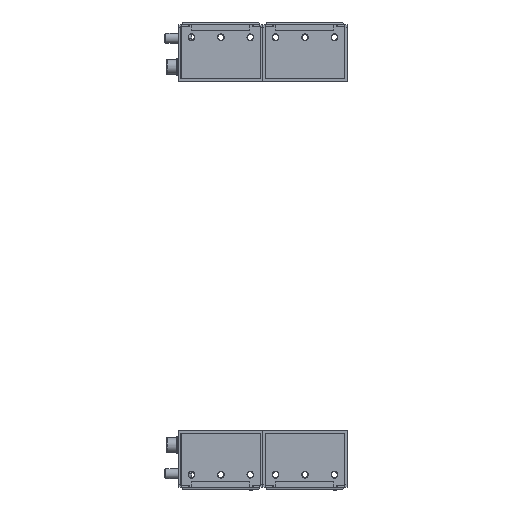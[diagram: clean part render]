
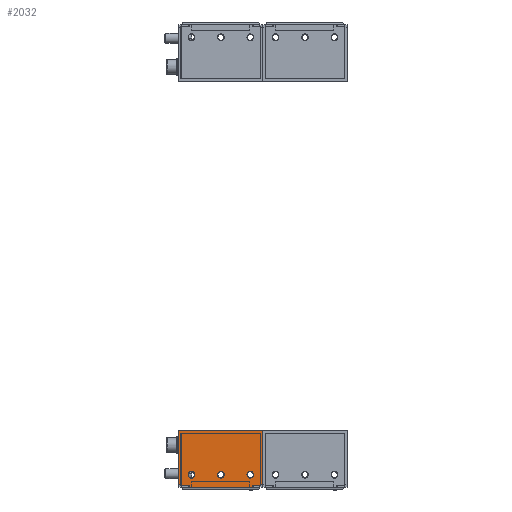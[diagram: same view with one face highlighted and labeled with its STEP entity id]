
A CAD part, left-side view. The second image highlights one B-rep face of the part: STEP entity #2032.
In plain terms, the highlighted planar face has unit normal (-1, 0, 0).
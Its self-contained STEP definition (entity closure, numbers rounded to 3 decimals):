
#335 = VERTEX_POINT('',#336);
#336 = CARTESIAN_POINT('',(-89.5,94.,-64.5));
#342 = EDGE_CURVE('',#335,#343,#345,.T.);
#343 = VERTEX_POINT('',#344);
#344 = CARTESIAN_POINT('',(-89.5,93.9,-64.5));
#345 = LINE('',#346,#347);
#346 = CARTESIAN_POINT('',(-89.5,93.,-64.5));
#347 = VECTOR('',#348,1.);
#348 = DIRECTION('',(0.,-1.,0.));
#367 = VERTEX_POINT('',#368);
#368 = CARTESIAN_POINT('',(-89.5,-0.9,-64.5));
#374 = EDGE_CURVE('',#375,#367,#377,.T.);
#375 = VERTEX_POINT('',#376);
#376 = CARTESIAN_POINT('',(-89.5,-1.,-64.5));
#377 = LINE('',#378,#379);
#378 = CARTESIAN_POINT('',(-89.5,93.,-64.5));
#379 = VECTOR('',#380,1.);
#380 = DIRECTION('',(0.,1.,0.));
#515 = VERTEX_POINT('',#516);
#516 = CARTESIAN_POINT('',(-89.5,-3.5,-67.));
#522 = EDGE_CURVE('',#523,#515,#525,.T.);
#523 = VERTEX_POINT('',#524);
#524 = CARTESIAN_POINT('',(-89.5,96.5,-67.));
#525 = LINE('',#526,#527);
#526 = CARTESIAN_POINT('',(-89.5,93.,-67.));
#527 = VECTOR('',#528,1.);
#528 = DIRECTION('',(-0.,-1.,-0.));
#1468 = VERTEX_POINT('',#1469);
#1469 = CARTESIAN_POINT('',(-89.5,94.,-3.5));
#1486 = VERTEX_POINT('',#1487);
#1487 = CARTESIAN_POINT('',(-89.5,96.5,-3.5));
#1493 = EDGE_CURVE('',#1468,#1486,#1494,.T.);
#1494 = LINE('',#1495,#1496);
#1495 = CARTESIAN_POINT('',(-89.5,94.,-3.5));
#1496 = VECTOR('',#1497,1.);
#1497 = DIRECTION('',(0.,1.,0.));
#2032 = ADVANCED_FACE('',(#2033,#2127,#2138,#2149),#2160,.T.);
#2033 = FACE_BOUND('',#2034,.T.);
#2034 = EDGE_LOOP('',(#2035,#2041,#2042,#2050,#2058,#2064,#2065,#2073,
    #2081,#2089,#2097,#2105,#2113,#2119,#2120,#2126));
#2035 = ORIENTED_EDGE('',*,*,#2036,.T.);
#2036 = EDGE_CURVE('',#1486,#523,#2037,.T.);
#2037 = LINE('',#2038,#2039);
#2038 = CARTESIAN_POINT('',(-89.5,96.5,0.));
#2039 = VECTOR('',#2040,1.);
#2040 = DIRECTION('',(0.,0.,-1.));
#2041 = ORIENTED_EDGE('',*,*,#522,.T.);
#2042 = ORIENTED_EDGE('',*,*,#2043,.T.);
#2043 = EDGE_CURVE('',#515,#2044,#2046,.T.);
#2044 = VERTEX_POINT('',#2045);
#2045 = CARTESIAN_POINT('',(-89.5,-3.5,-3.5));
#2046 = LINE('',#2047,#2048);
#2047 = CARTESIAN_POINT('',(-89.5,-3.5,-63.5));
#2048 = VECTOR('',#2049,1.);
#2049 = DIRECTION('',(0.,0.,1.));
#2050 = ORIENTED_EDGE('',*,*,#2051,.F.);
#2051 = EDGE_CURVE('',#2052,#2044,#2054,.T.);
#2052 = VERTEX_POINT('',#2053);
#2053 = CARTESIAN_POINT('',(-89.5,-1.,-3.5));
#2054 = LINE('',#2055,#2056);
#2055 = CARTESIAN_POINT('',(-89.5,-1.,-3.5));
#2056 = VECTOR('',#2057,1.);
#2057 = DIRECTION('',(0.,-1.,0.));
#2058 = ORIENTED_EDGE('',*,*,#2059,.T.);
#2059 = EDGE_CURVE('',#2052,#375,#2060,.T.);
#2060 = LINE('',#2061,#2062);
#2061 = CARTESIAN_POINT('',(-89.5,-1.,0.));
#2062 = VECTOR('',#2063,1.);
#2063 = DIRECTION('',(0.,0.,-1.));
#2064 = ORIENTED_EDGE('',*,*,#374,.T.);
#2065 = ORIENTED_EDGE('',*,*,#2066,.F.);
#2066 = EDGE_CURVE('',#2067,#367,#2069,.T.);
#2067 = VERTEX_POINT('',#2068);
#2068 = CARTESIAN_POINT('',(-89.5,-0.9,-2.6));
#2069 = LINE('',#2070,#2071);
#2070 = CARTESIAN_POINT('',(-89.5,-0.9,0.));
#2071 = VECTOR('',#2072,1.);
#2072 = DIRECTION('',(0.,0.,-1.));
#2073 = ORIENTED_EDGE('',*,*,#2074,.T.);
#2074 = EDGE_CURVE('',#2067,#2075,#2077,.T.);
#2075 = VERTEX_POINT('',#2076);
#2076 = CARTESIAN_POINT('',(-89.5,8.6,-2.6));
#2077 = LINE('',#2078,#2079);
#2078 = CARTESIAN_POINT('',(-89.5,-0.9,-2.6));
#2079 = VECTOR('',#2080,1.);
#2080 = DIRECTION('',(0.,1.,0.));
#2081 = ORIENTED_EDGE('',*,*,#2082,.T.);
#2082 = EDGE_CURVE('',#2075,#2083,#2085,.T.);
#2083 = VERTEX_POINT('',#2084);
#2084 = CARTESIAN_POINT('',(-89.5,8.6,0.));
#2085 = LINE('',#2086,#2087);
#2086 = CARTESIAN_POINT('',(-89.5,8.6,0.));
#2087 = VECTOR('',#2088,1.);
#2088 = DIRECTION('',(0.,0.,1.));
#2089 = ORIENTED_EDGE('',*,*,#2090,.F.);
#2090 = EDGE_CURVE('',#2091,#2083,#2093,.T.);
#2091 = VERTEX_POINT('',#2092);
#2092 = CARTESIAN_POINT('',(-89.5,84.4,0.));
#2093 = LINE('',#2094,#2095);
#2094 = CARTESIAN_POINT('',(-89.5,93.,0.));
#2095 = VECTOR('',#2096,1.);
#2096 = DIRECTION('',(0.,-1.,-0.));
#2097 = ORIENTED_EDGE('',*,*,#2098,.T.);
#2098 = EDGE_CURVE('',#2091,#2099,#2101,.T.);
#2099 = VERTEX_POINT('',#2100);
#2100 = CARTESIAN_POINT('',(-89.5,84.4,-2.6));
#2101 = LINE('',#2102,#2103);
#2102 = CARTESIAN_POINT('',(-89.5,84.4,0.));
#2103 = VECTOR('',#2104,1.);
#2104 = DIRECTION('',(0.,0.,-1.));
#2105 = ORIENTED_EDGE('',*,*,#2106,.T.);
#2106 = EDGE_CURVE('',#2099,#2107,#2109,.T.);
#2107 = VERTEX_POINT('',#2108);
#2108 = CARTESIAN_POINT('',(-89.5,93.9,-2.6));
#2109 = LINE('',#2110,#2111);
#2110 = CARTESIAN_POINT('',(-89.5,93.9,-2.6));
#2111 = VECTOR('',#2112,1.);
#2112 = DIRECTION('',(0.,1.,0.));
#2113 = ORIENTED_EDGE('',*,*,#2114,.F.);
#2114 = EDGE_CURVE('',#343,#2107,#2115,.T.);
#2115 = LINE('',#2116,#2117);
#2116 = CARTESIAN_POINT('',(-89.5,93.9,-63.5));
#2117 = VECTOR('',#2118,1.);
#2118 = DIRECTION('',(0.,0.,1.));
#2119 = ORIENTED_EDGE('',*,*,#342,.F.);
#2120 = ORIENTED_EDGE('',*,*,#2121,.T.);
#2121 = EDGE_CURVE('',#335,#1468,#2122,.T.);
#2122 = LINE('',#2123,#2124);
#2123 = CARTESIAN_POINT('',(-89.5,94.,-63.5));
#2124 = VECTOR('',#2125,1.);
#2125 = DIRECTION('',(0.,0.,1.));
#2126 = ORIENTED_EDGE('',*,*,#1493,.T.);
#2127 = FACE_BOUND('',#2128,.T.);
#2128 = EDGE_LOOP('',(#2129));
#2129 = ORIENTED_EDGE('',*,*,#2130,.F.);
#2130 = EDGE_CURVE('',#2131,#2131,#2133,.T.);
#2131 = VERTEX_POINT('',#2132);
#2132 = CARTESIAN_POINT('',(-89.5,11.5,-11.));
#2133 = CIRCLE('',#2134,4.);
#2134 = AXIS2_PLACEMENT_3D('',#2135,#2136,#2137);
#2135 = CARTESIAN_POINT('',(-89.5,11.5,-15.));
#2136 = DIRECTION('',(-1.,0.,0.));
#2137 = DIRECTION('',(0.,0.,1.));
#2138 = FACE_BOUND('',#2139,.T.);
#2139 = EDGE_LOOP('',(#2140));
#2140 = ORIENTED_EDGE('',*,*,#2141,.F.);
#2141 = EDGE_CURVE('',#2142,#2142,#2144,.T.);
#2142 = VERTEX_POINT('',#2143);
#2143 = CARTESIAN_POINT('',(-89.5,81.5,-11.));
#2144 = CIRCLE('',#2145,4.);
#2145 = AXIS2_PLACEMENT_3D('',#2146,#2147,#2148);
#2146 = CARTESIAN_POINT('',(-89.5,81.5,-15.));
#2147 = DIRECTION('',(-1.,0.,0.));
#2148 = DIRECTION('',(0.,0.,1.));
#2149 = FACE_BOUND('',#2150,.T.);
#2150 = EDGE_LOOP('',(#2151));
#2151 = ORIENTED_EDGE('',*,*,#2152,.F.);
#2152 = EDGE_CURVE('',#2153,#2153,#2155,.T.);
#2153 = VERTEX_POINT('',#2154);
#2154 = CARTESIAN_POINT('',(-89.5,46.5,-11.));
#2155 = CIRCLE('',#2156,4.);
#2156 = AXIS2_PLACEMENT_3D('',#2157,#2158,#2159);
#2157 = CARTESIAN_POINT('',(-89.5,46.5,-15.));
#2158 = DIRECTION('',(-1.,0.,0.));
#2159 = DIRECTION('',(0.,0.,1.));
#2160 = PLANE('',#2161);
#2161 = AXIS2_PLACEMENT_3D('',#2162,#2163,#2164);
#2162 = CARTESIAN_POINT('',(-89.5,0.,0.
    ));
#2163 = DIRECTION('',(-1.,0.,0.));
#2164 = DIRECTION('',(0.,0.,1.));
